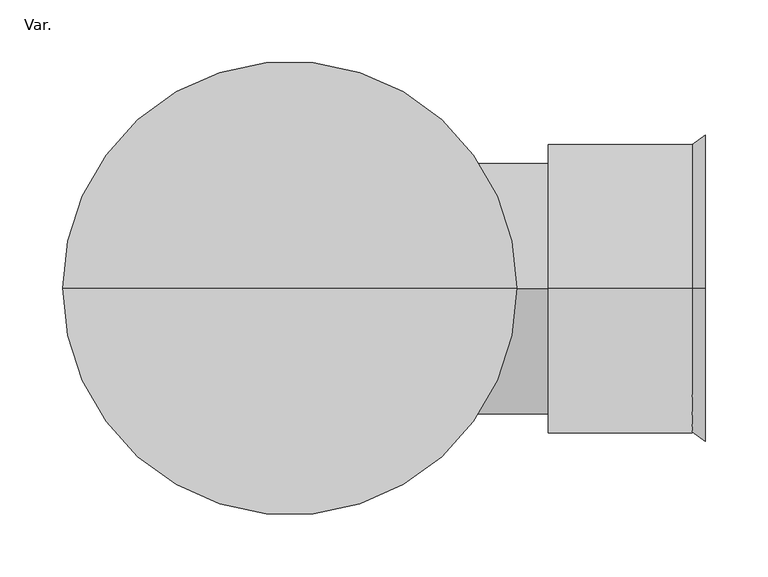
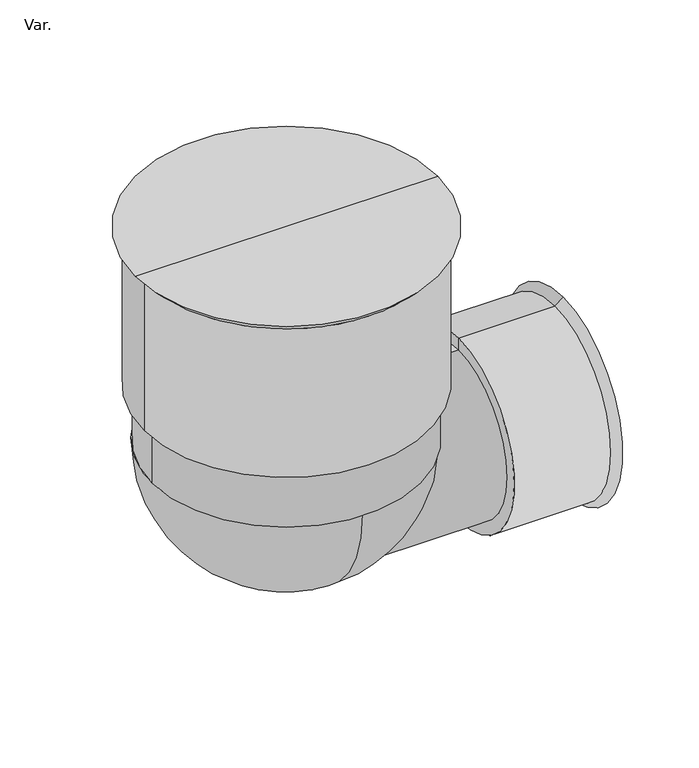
"""IFC4 building model written with IfcOpenShell, lengths in millimetres: pipe fitting geometry, PlastigamaWavin_Unionesdetubería_NovafortSistemaTIL : Var.."""

from ifc_helpers import new_model, si_unit, point, frame, frame_2d, origin, place, context, project, spatial, polyline, circle_curve, ellipse_curve, trimmed, segment, composite_curve, outline, extrude, source, transform, mapped, element, save
from ifc_brep_helpers import plane_surface, cylinder_surface, revolved_surface, advanced_brep


def var_e1b74d34(model_context):
    return source(origin(), model_context, "Body", "SolidModel", [
        advanced_brep(
        [(205.69, 0.0, -15.0), (205.69, 0.0, 215.0), (205.69, 0.0, 100.0), (320.3671356, 0.0, -15.0), (320.3671356, 0.0, 215.0), (330.69, 0.0, -22.5), (330.69, 0.0, 222.5), (330.69, 0.0, 100.0)],
        [
            (0, 1, circle_curve(frame((205.69, 0.0, 100.0), z_axis=(-1.0, 0.0, 0.0), x_axis=(0.0, 0.0, 1.0)), 115.0)),
            (1, 2),
            (2, 0),
            (1, 0, circle_curve(frame((205.69, 0.0, 100.0), z_axis=(-1.0, 0.0, 0.0), x_axis=(0.0, 0.0, 1.0)), 115.0)),
            (3, 4, circle_curve(frame((320.3671356, 0.0, 100.0), z_axis=(-1.0, 0.0, 0.0), x_axis=(0.0, 0.0, 1.0)), 115.0)),
            (4, 1),
            (0, 3),
            (4, 3, circle_curve(frame((320.3671356, 0.0, 100.0), z_axis=(-1.0, 0.0, 0.0), x_axis=(0.0, 0.0, 1.0)), 115.0)),
            (5, 6, circle_curve(frame((330.69, 0.0, 100.0), z_axis=(-1.0, 0.0, 0.0), x_axis=(0.0, 0.0, 1.0)), 122.5)),
            (6, 4),
            (3, 5),
            (6, 5, circle_curve(frame((330.69, 0.0, 100.0), z_axis=(-1.0, 0.0, 0.0), x_axis=(0.0, 0.0, 1.0)), 122.5)),
            (7, 6),
            (5, 7),
        ],
        [
            plane_surface(frame((205.69, 0.0, 100.0), z_axis=(-1.0, 0.0, 0.0), x_axis=(0.0, 0.0, 1.0))),
            cylinder_surface(frame((330.69, 0.0, 100.0), z_axis=(1.0, 0.0, 0.0), x_axis=(0.0, 0.0, 1.0)), 115.0),
            revolved_surface(polyline([(320.3671356, 0.0, 215.0), (330.69, 0.0, 222.5)]), (330.69, 0.0, 100.0), (1.0, 0.0, 0.0)),
            plane_surface(frame((330.69, 0.0, 100.0), z_axis=(1.0, 0.0, 0.0), x_axis=(0.0, 0.0, 1.0))),
        ],
        [
            (0, [[1, 2, 3]]),
            (0, [[4, -3, -2]]),
            (1, [[5, 6, -1, 7]]),
            (1, [[8, -7, -4, -6]]),
            (2, [[9, 10, -5, 11]]),
            (2, [[12, -11, -8, -10]]),
            (3, [[13, -9, 14]]),
            (3, [[-14, -12, -13]]),
        ],
    ),
        advanced_brep(
        [(0.0, 0.0, 0.0), (0.0, 0.0, 200.0), (205.69, 0.0, 200.0), (205.69, 0.0, 0.0), (0.0, 0.0, 100.0), (205.69, 0.0, 100.0)],
        [
            (0, 1, circle_curve(frame((0.0, 0.0, 100.0), z_axis=(1.0, 0.0, 0.0), x_axis=(0.0, 0.0, 1.0)), 100.0)),
            (1, 2),
            (2, 3, circle_curve(frame((205.69, 0.0, 100.0), z_axis=(-1.0, 0.0, 0.0), x_axis=(0.0, 0.0, 1.0)), 100.0)),
            (3, 0),
            (1, 0, circle_curve(frame((0.0, 0.0, 100.0), z_axis=(1.0, 0.0, 0.0), x_axis=(0.0, 0.0, 1.0)), 100.0)),
            (3, 2, circle_curve(frame((205.69, 0.0, 100.0), z_axis=(-1.0, 0.0, 0.0), x_axis=(0.0, 0.0, 1.0)), 100.0)),
            (4, 1),
            (0, 4),
            (2, 5),
            (5, 3),
        ],
        [
            cylinder_surface(frame((0.0, 0.0, 100.0), z_axis=(-1.0, 0.0, 0.0), x_axis=(0.0, 0.0, 1.0)), 100.0),
            plane_surface(frame((0.0, 0.0, 100.0), z_axis=(-1.0, 0.0, 0.0), x_axis=(0.0, 0.0, 1.0))),
            plane_surface(frame((205.69, 0.0, 100.0), z_axis=(1.0, 0.0, 0.0), x_axis=(0.0, 0.0, 1.0))),
        ],
        [
            (0, [[1, 2, 3, 4]]),
            (0, [[5, -4, 6, -2]]),
            (1, [[7, -1, 8]]),
            (1, [[-8, -5, -7]]),
            (2, [[-3, 9, 10]]),
            (2, [[-6, -10, -9]]),
        ],
    ),
        advanced_brep(
        [(0.0, 0.0, 230.0), (-170.0, 0.0, 230.0), (170.0, 0.0, 230.0), (-170.0, 0.0, 417.3933983), (170.0, 0.0, 417.3933983), (180.6066017, 0.0, 428.0), (-180.6066017, 0.0, 428.0), (0.0, 0.0, 428.0)],
        [
            (0, 1),
            (1, 2, circle_curve(frame((0.0, 0.0, 230.0), z_axis=(0.0, 0.0, -1.0), x_axis=(-1.0, 0.0, 0.0)), 170.0)),
            (2, 0),
            (2, 1, circle_curve(frame((0.0, 0.0, 230.0), z_axis=(0.0, 0.0, -1.0), x_axis=(-1.0, 0.0, 0.0)), 170.0)),
            (1, 3),
            (3, 4, circle_curve(frame((0.0, 0.0, 417.3933983), z_axis=(0.0, 0.0, -1.0), x_axis=(-1.0, 0.0, 0.0)), 170.0)),
            (4, 2),
            (4, 3, circle_curve(frame((0.0, 0.0, 417.3933983), z_axis=(0.0, 0.0, -1.0), x_axis=(-1.0, 0.0, 0.0)), 170.0)),
            (5, 6, circle_curve(frame((0.0, 0.0, 428.0), z_axis=(0.0, 0.0, 1.0), x_axis=(-1.0, 0.0, 0.0)), 180.6066017)),
            (6, 7),
            (7, 5),
            (6, 5, circle_curve(frame((0.0, 0.0, 428.0), z_axis=(0.0, 0.0, 1.0), x_axis=(-1.0, 0.0, 0.0)), 180.6066017)),
            (3, 6),
            (5, 4),
        ],
        [
            plane_surface(frame((0.0, 0.0, 230.0), z_axis=(0.0, 0.0, -1.0), x_axis=(-1.0, 0.0, 0.0))),
            cylinder_surface(frame((0.0, 0.0, 458.0), z_axis=(0.0, 0.0, -1.0), x_axis=(-1.0, 0.0, 0.0)), 170.0),
            plane_surface(frame((0.0, 0.0, 428.0), z_axis=(0.0, 0.0, 1.0), x_axis=(-1.0, 0.0, 0.0))),
            revolved_surface(polyline([(-180.6066017, 0.0, 428.0), (-170.0, 0.0, 417.3933983)]), (0.0, 0.0, 458.0), (0.0, 0.0, -1.0)),
        ],
        [
            (0, [[1, 2, 3]]),
            (0, [[-3, 4, -1]]),
            (1, [[-2, 5, 6, 7]]),
            (1, [[-4, -7, 8, -5]]),
            (2, [[9, 10, 11]]),
            (2, [[12, -11, -10]]),
            (3, [[-6, 13, -9, 14]]),
            (3, [[-8, -14, -12, -13]]),
        ],
    ),
        extrude(outline(composite_curve([segment(trimmed(circle_curve(frame_2d((0.0, 5.6e-06)), 160.0), [point((-160.0, 5.6e-06))], [point((160.0, 5.6e-06))], False, "CARTESIAN"), True, "CONTINUOUS"), segment(trimmed(circle_curve(frame_2d((0.0, 5.6e-06)), 160.0), [point((160.0, 5.6e-06))], [point((-160.0, 5.6e-06))], False, "CARTESIAN"), True, "CONTINUOUS")], self_intersect=False)), frame((0.0, 0.0, 160.0), z_axis=(0.0, 0.0, 1.0), x_axis=(1.0, 0.0, 0.0)), (0.0, 0.0, 1.0), 70.0),
        advanced_brep(
        [(0.0, 162.5000056, 160.0), (0.0, -157.4999944, 160.0), (0.0, 2.5000056, 0.0), (0.0, 2.5000056, 160.0)],
        [
            (0, 1, circle_curve(frame((0.0, 2.5000056, 160.0), z_axis=(0.0, 0.0, -1.0), x_axis=(0.0, -1.0, 0.0)), 160.0)),
            (1, 2, circle_curve(frame((0.0, 2.5000056, 160.0), z_axis=(1.0, 0.0, 0.0), x_axis=(0.0, -1.0, 0.0)), 160.0)),
            (2, 0, circle_curve(frame((0.0, 2.5000056, 160.0), z_axis=(1.0, 0.0, 0.0), x_axis=(0.0, 1.0, 0.0)), 160.0)),
            (1, 0, circle_curve(frame((0.0, 2.5000056, 160.0), z_axis=(0.0, 0.0, -1.0), x_axis=(0.0, -1.0, 0.0)), 160.0)),
            (3, 1),
            (0, 3),
        ],
        [
            revolved_surface(trimmed(ellipse_curve(frame((0.0, 2.5000056, 160.0), z_axis=(-1.0, 0.0, 0.0), x_axis=(0.0, -1.0, 0.0)), 160.0, 160.0), [point((0.0, 2.5000056, 0.0))], [point((0.0, -157.4999944, 160.0))], True, "CARTESIAN"), (0.0, 2.5000056, 0.0), (0.0, 0.0, 1.0)),
            plane_surface(frame((0.0, 2.5000056, 160.0), z_axis=(0.0, 0.0, 1.0), x_axis=(0.0, -1.0, 0.0))),
        ],
        [
            (0, [[1, 2, 3]]),
            (0, [[4, -3, -2]]),
            (1, [[5, -1, 6]]),
            (1, [[-6, -4, -5]]),
        ],
    ),
    ])


if __name__ == "__main__":
    model = new_model("IFC4")
    model_context = context("Model", 3, world=origin())
    ifc_project = project(units=[si_unit("LENGTHUNIT", "METRE", prefix="MILLI")], contexts=[model_context])
    site = spatial("IfcSite", under=ifc_project)
    building = spatial("IfcBuilding", under=site)
    placement = place(None, origin())
    var_shape = var_e1b74d34(model_context)
    element("IfcPipeFitting", 1, ObjectType="PlastigamaWavin_Unionesdetubería_NovafortSistemaTIL : Var.", at=placement, inside=building, context=model_context, shape_type="MappedRepresentation", body=[
        mapped(var_shape, transform((0.0, 0.0, 0.0), x_axis=(1.0, 0.0, 0.0), y_axis=(0.0, 1.0, 0.0), z_axis=(0.0, 0.0, 1.0))),
    ])
    save(model, "model.ifc")
